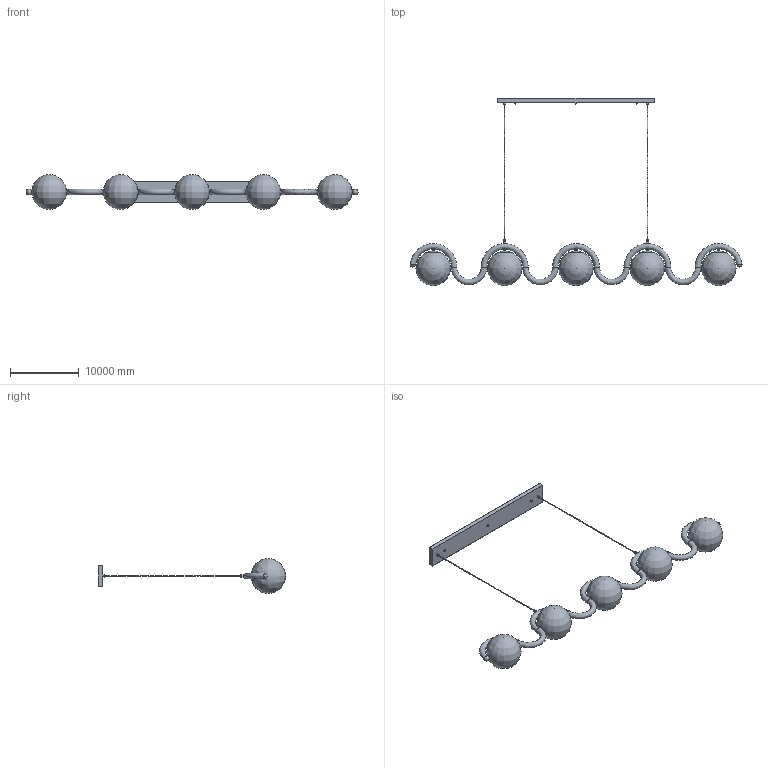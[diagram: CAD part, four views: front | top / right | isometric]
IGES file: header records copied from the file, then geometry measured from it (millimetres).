
Global section: file name: Lenox Linear Ball Pendant Lamp-5heads; native system: AutoCAD 2022 - 简体中文 (Simplified Chinese),62HAuto; preprocessor: desk Translation Framework DWG producer (atf_dwg_producer); organization: unknown; date: 20260730.152432; units: inch
Bounding box: 48459.11 x 27349.57 x 5080 mm (x, y, z)
Volume: 393016192139.9 mm3; surface area: 924348966.8 mm2
Topology: 38 solids, 38 shells, 332 faces, 836 edges, 612 vertices
Faces by surface type: bspline 332
